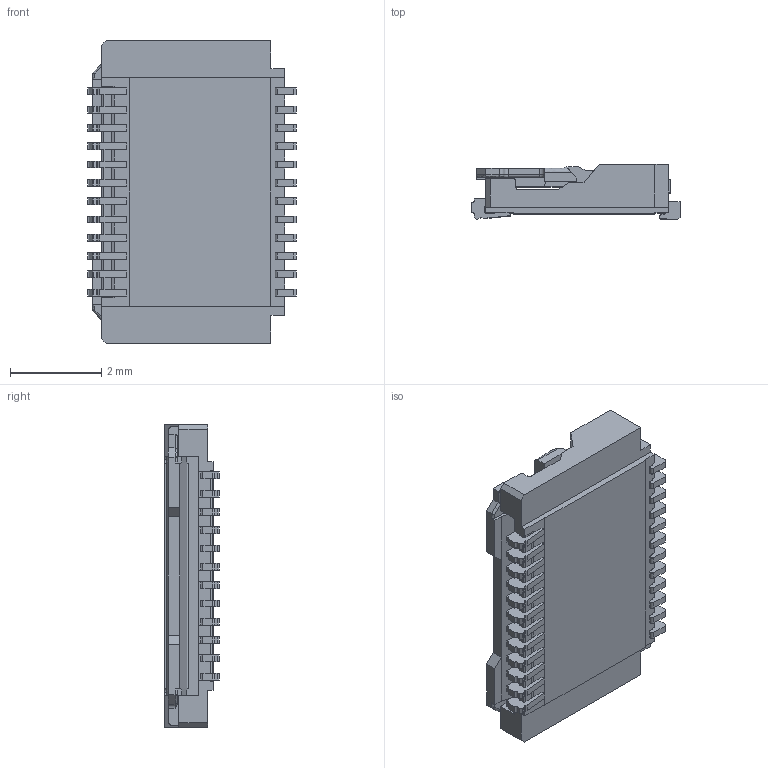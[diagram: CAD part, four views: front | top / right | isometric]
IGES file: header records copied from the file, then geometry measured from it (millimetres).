
Start section: Elysium IGES Interface
Global section: file name: 75HT:\3D_USER\FH共通\簡略（客先提出用）\FH29B\KENZU_SUMI\FH29BW-24S-0.2SHW.igs; native system: SolidDesigner 15.00A  14-Mar-2007; preprocessor: OneSpace IGES_3D V2.2; author: Unknown; organization: Unknown; date: 20080523.141853; units: millimetre
Bounding box: 4.55 x 1.2 x 6.62 mm (x, y, z)
Volume: 19.8 mm3; surface area: 136.7 mm2
Topology: 1 solids, 1 shells, 652 faces, 1889 edges, 1235 vertices
Faces by surface type: bspline 652
